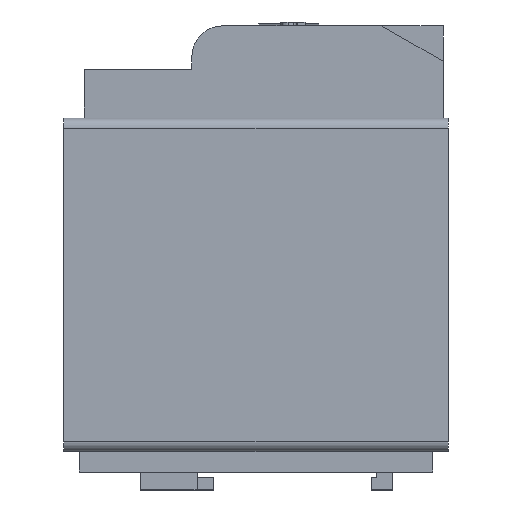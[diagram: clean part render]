
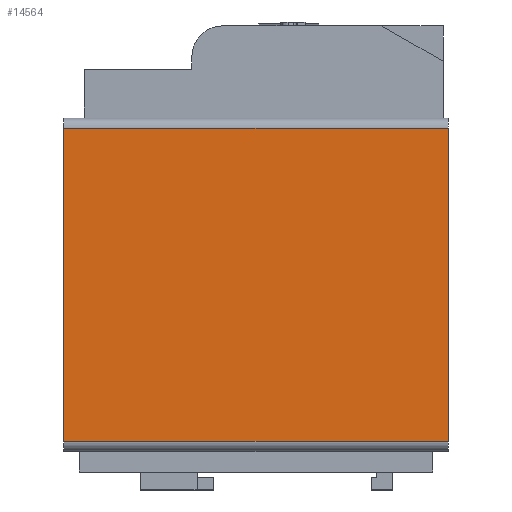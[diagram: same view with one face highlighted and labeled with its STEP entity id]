
A CAD part, left-side view. The second image highlights one B-rep face of the part: STEP entity #14564.
In plain terms, the highlighted planar face has unit normal (-1, 0, 0).
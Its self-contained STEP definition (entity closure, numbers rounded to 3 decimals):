
#698 = VECTOR ( 'NONE', #15175, 1000. ) ;
#2495 = VERTEX_POINT ( 'NONE', #2810 ) ;
#2810 = CARTESIAN_POINT ( 'NONE',  ( 0., 43.5, 6. ) ) ;
#2909 = DIRECTION ( 'NONE',  ( 0., 0., 1. ) ) ;
#3111 = ORIENTED_EDGE ( 'NONE', *, *, #12636, .F. ) ;
#3704 = LINE ( 'NONE', #10523, #13472 ) ;
#3827 = CARTESIAN_POINT ( 'NONE',  ( 0., 43.5, 67. ) ) ;
#3958 = VERTEX_POINT ( 'NONE', #3827 ) ;
#6286 = EDGE_CURVE ( 'NONE', #9762, #3958, #3704, .T. ) ;
#6952 = DIRECTION ( 'NONE',  ( 0., 0., 1. ) ) ;
#7237 = FACE_OUTER_BOUND ( 'NONE', #11612, .T. ) ;
#7951 = DIRECTION ( 'NONE',  ( 0., 1., 0. ) ) ;
#8045 = ORIENTED_EDGE ( 'NONE', *, *, #9086, .T. ) ;
#8046 = ORIENTED_EDGE ( 'NONE', *, *, #16418, .F. ) ;
#8164 = PLANE ( 'NONE',  #8289 ) ;
#8181 = VECTOR ( 'NONE', #2909, 1000. ) ;
#8235 = VERTEX_POINT ( 'NONE', #16228 ) ;
#8289 = AXIS2_PLACEMENT_3D ( 'NONE', #12036, #14603, #6952 ) ;
#8564 = CARTESIAN_POINT ( 'NONE',  ( 0., 43.5, 6. ) ) ;
#9086 = EDGE_CURVE ( 'NONE', #8235, #9762, #16210, .T. ) ;
#9103 = VECTOR ( 'NONE', #16229, 1000. ) ;
#9352 = CARTESIAN_POINT ( 'NONE',  ( 0., -31.5, 67. ) ) ;
#9762 = VERTEX_POINT ( 'NONE', #9352 ) ;
#10523 = CARTESIAN_POINT ( 'NONE',  ( 0., -31.5, 67. ) ) ;
#11612 = EDGE_LOOP ( 'NONE', ( #12786, #8046, #3111, #8045 ) ) ;
#12036 = CARTESIAN_POINT ( 'NONE',  ( 0., -31.5, 6. ) ) ;
#12636 = EDGE_CURVE ( 'NONE', #8235, #2495, #14321, .T. ) ;
#12684 = LINE ( 'NONE', #8564, #9103 ) ;
#12786 = ORIENTED_EDGE ( 'NONE', *, *, #6286, .T. ) ;
#13472 = VECTOR ( 'NONE', #7951, 1000. ) ;
#13886 = CARTESIAN_POINT ( 'NONE',  ( 0., -31.5, 6. ) ) ;
#14321 = LINE ( 'NONE', #13886, #698 ) ;
#14402 = CARTESIAN_POINT ( 'NONE',  ( 0., -31.5, 6. ) ) ;
#14564 = ADVANCED_FACE ( 'NONE', ( #7237 ), #8164, .T. ) ;
#14603 = DIRECTION ( 'NONE',  ( -1., 0., 0. ) ) ;
#15175 = DIRECTION ( 'NONE',  ( 0., 1., 0. ) ) ;
#16210 = LINE ( 'NONE', #14402, #8181 ) ;
#16228 = CARTESIAN_POINT ( 'NONE',  ( 0., -31.5, 6. ) ) ;
#16229 = DIRECTION ( 'NONE',  ( 0., 0., 1. ) ) ;
#16418 = EDGE_CURVE ( 'NONE', #2495, #3958, #12684, .T. ) ;
